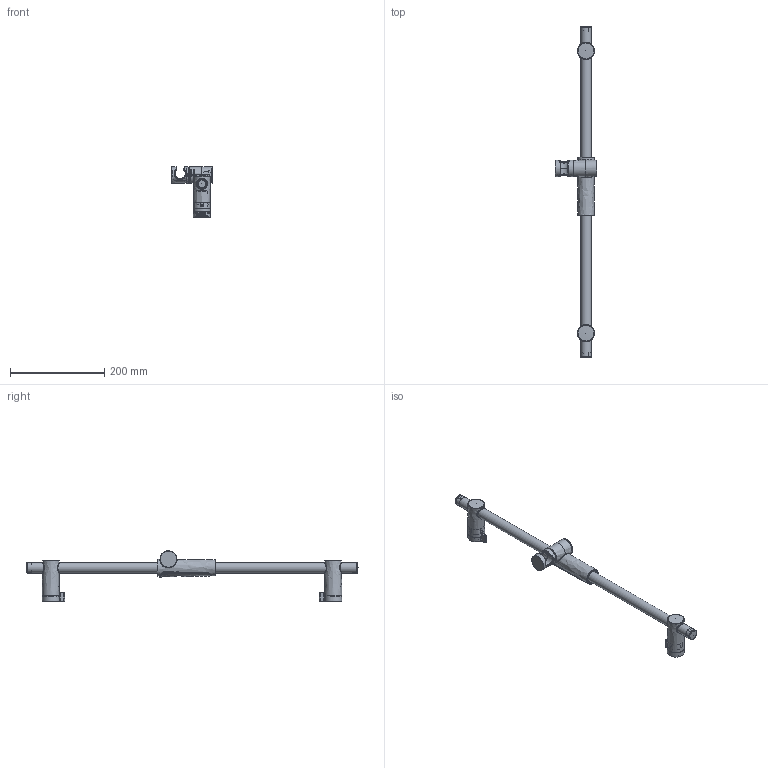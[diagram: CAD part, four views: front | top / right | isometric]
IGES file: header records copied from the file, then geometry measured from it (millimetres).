
Global section: file name: b2d7c227-65ed-4365-99d6-181b4494f11b.zip; native system: unknown; preprocessor: unknown; author: unknown; organization: unknown; date: 20191214.154829; units: millimetre
Bounding box: 89.25 x 705.6 x 107.05 mm (x, y, z)
Volume: 198533.4 mm3; surface area: 256970.4 mm2
Topology: 30 solids, 30 shells, 4462 faces, 11442 edges, 7210 vertices
Faces by surface type: bspline 4462
